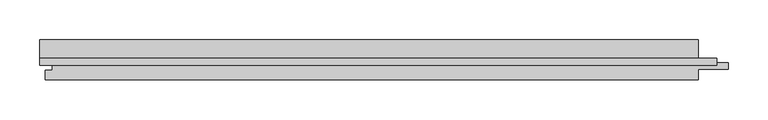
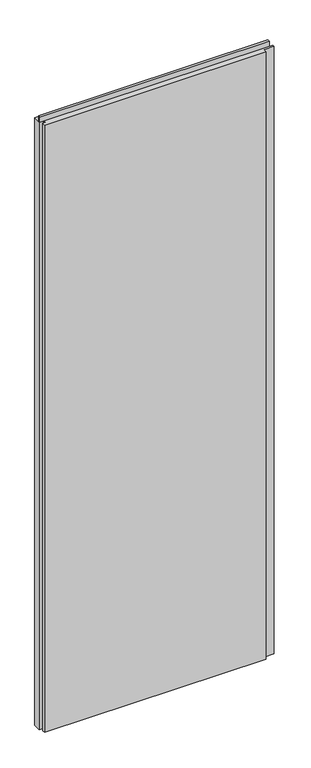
"""IFC4 building model written with IfcOpenShell, lengths in millimetres: plate geometry, Trimo_Qbiss Screen_Normal Panel-VERTICAL : HR - B."""

import ifcopenshell
import ifcopenshell.guid

model = None  # the IFC model being written
_history = None  # IfcOwnerHistory: only IFC2X3 demands one
_inside = {}  # id of a spatial element -> (the spatial element, [elements in it])
_under = {}  # id of a project, library or spatial element -> (it, [spatial elements below it])
_declared = {}  # id of a project -> (the project, [libraries it declares])
_typed = {}  # id of a type object -> (the type object, [elements of that type])
_made_of = {}  # id of a material, layer set ... -> (it, [elements and type objects made of it])


def new_model(schema):
    """Start an empty IFC model of exactly this schema.

    Asked for "IFC4X3", IfcOpenShell would pick the latest addendum, in which some entities
    have other attributes; the version numbers below select the first issue.
    IFC2X3 requires an IfcOwnerHistory on every rooted entity: one is made here for all.
    """
    global model, _history
    if schema == "IFC4X3":
        model = ifcopenshell.file(schema_version=(4, 3, 0, 0))
    else:
        model = ifcopenshell.file(schema=schema)
    _inside.clear()
    _under.clear()
    _declared.clear()
    _typed.clear()
    _made_of.clear()
    _history = None
    if model.schema == "IFC2X3":
        org = make("IfcOrganization", Name="unknown")
        user = make(
            "IfcPersonAndOrganization",
            ThePerson=make("IfcPerson", FamilyName="unknown"),
            TheOrganization=org,
        )
        app = make(
            "IfcApplication",
            ApplicationDeveloper=org,
            Version="unknown",
            ApplicationFullName="unknown",
            ApplicationIdentifier="unknown",
        )
        _history = make(
            "IfcOwnerHistory",
            OwningUser=user,
            OwningApplication=app,
            ChangeAction="ADDED",
            CreationDate=0,
        )
    return model


def make(cls, **values):
    """One entity of the class cls with the attributes given. An attribute that is None is left unset."""
    return model.create_entity(
        cls, **{name: value for name, value in values.items() if value is not None}
    )


def rooted(cls, **values):
    """An entity with a GlobalId (a new one), such as an element, a storey or a relation."""
    return make(cls, GlobalId=ifcopenshell.guid.new(), OwnerHistory=_history, **values)


def si_unit(unit_type, name, prefix=None):
    """IfcSIUnit, for example si_unit("LENGTHUNIT", "METRE", prefix="MILLI")."""
    return make("IfcSIUnit", UnitType=unit_type, Prefix=prefix, Name=name)


def assignment(units):
    """IfcUnitAssignment: the units of a project."""
    return None if units is None else make("IfcUnitAssignment", Units=units)


def point(xyz):
    """IfcCartesianPoint."""
    return None if xyz is None else make("IfcCartesianPoint", Coordinates=xyz)


def direction(xyz):
    """IfcDirection."""
    return None if xyz is None else make("IfcDirection", DirectionRatios=xyz)


def frame(location, z_axis=None, x_axis=None):
    """IfcAxis2Placement3D, a coordinate frame: its origin and axes. An axis left out is left unset."""
    return make(
        "IfcAxis2Placement3D",
        Location=point(location),
        Axis=direction(z_axis),
        RefDirection=direction(x_axis),
    )


def origin():
    """The frame at (0, 0, 0) with its axes left unset."""
    return frame((0.0, 0.0, 0.0))


def place(relative_to, where):
    """IfcLocalPlacement: puts the frame where relative to a parent placement (None: the world)."""
    return make(
        "IfcLocalPlacement", PlacementRelTo=relative_to, RelativePlacement=where
    )


def context(
    kind, dimensions, precision=None, world=None, true_north=None, identifier=None
):
    """IfcGeometricRepresentationContext, for example the 3D "Model" context."""
    return make(
        "IfcGeometricRepresentationContext",
        ContextIdentifier=identifier,
        ContextType=kind,
        CoordinateSpaceDimension=dimensions,
        Precision=precision,
        WorldCoordinateSystem=world,
        TrueNorth=true_north,
    )


def project(units=None, contexts=None):
    """IfcProject with its units and contexts."""
    return rooted(
        "IfcProject",
        Name="project",
        RepresentationContexts=contexts,
        UnitsInContext=assignment(units),
    )


def spatial(cls, under=None, at=None, **own):
    """A site, building, storey or space (cls), placed at a placement, below another one or the project."""
    s = rooted(cls, ObjectPlacement=at, **own)
    if under is not None:
        _under.setdefault(under.id(), (under, []))[1].append(s)
    return s


def polyline(points):
    """IfcPolyline through the points."""
    return make("IfcPolyline", Points=[point(p) for p in points])


def outline(outer, holes=None, kind="AREA"):
    """IfcArbitraryClosedProfileDef: a profile drawn as a closed curve; with holes, ...WithVoids."""
    if holes is None:
        return make("IfcArbitraryClosedProfileDef", ProfileType=kind, OuterCurve=outer)
    return make(
        "IfcArbitraryProfileDefWithVoids",
        ProfileType=kind,
        OuterCurve=outer,
        InnerCurves=holes,
    )


def extrude(swept, where, along, depth):
    """IfcExtrudedAreaSolid: the profile swept, set in the frame where, extruded along a direction by depth."""
    return make(
        "IfcExtrudedAreaSolid",
        SweptArea=swept,
        Position=where,
        ExtrudedDirection=direction(along),
        Depth=depth,
    )


def shape(context_of_items, identifier, shape_type, items):
    """IfcShapeRepresentation: the items that make up one representation, for example the "Body"."""
    return make(
        "IfcShapeRepresentation",
        ContextOfItems=context_of_items,
        RepresentationIdentifier=identifier,
        RepresentationType=shape_type,
        Items=items,
    )


def source(mapping_origin, context_of_items, identifier, shape_type, items):
    """IfcRepresentationMap: a shape defined once, which mapped items show again and again."""
    return make(
        "IfcRepresentationMap",
        MappingOrigin=mapping_origin,
        MappedRepresentation=shape(context_of_items, identifier, shape_type, items),
    )


def transform(
    local_origin,
    x_axis=None,
    y_axis=None,
    z_axis=None,
    scale=None,
    scale2=None,
    scale3=None,
    uniform=True,
):
    """IfcCartesianTransformationOperator3D, or its non-uniform kind. x_axis, y_axis, z_axis: its Axis1, 2, 3."""
    if uniform:
        return make(
            "IfcCartesianTransformationOperator3D",
            Axis1=direction(x_axis),
            Axis2=direction(y_axis),
            LocalOrigin=point(local_origin),
            Scale=scale,
            Axis3=direction(z_axis),
        )
    return make(
        "IfcCartesianTransformationOperator3DnonUniform",
        Axis1=direction(x_axis),
        Axis2=direction(y_axis),
        LocalOrigin=point(local_origin),
        Scale=scale,
        Axis3=direction(z_axis),
        Scale2=scale2,
        Scale3=scale3,
    )


def mapped(mapping_source, mapping_target):
    """IfcMappedItem: shows the shape of a source again, moved by a transform."""
    return make(
        "IfcMappedItem", MappingSource=mapping_source, MappingTarget=mapping_target
    )


def made_of(thing, what):
    """Note that an element or type object is made of a material, layer set ...; save() writes the relation."""
    if what is not None:
        _made_of.setdefault(what.id(), (what, []))[1].append(thing)
    return thing


def element(
    cls,
    number,
    at=None,
    inside=None,
    cuts=None,
    type_object=None,
    material=None,
    context=None,
    identifier="Body",
    shape_type=None,
    held_by="IfcProductDefinitionShape",
    body=None,
    shapes=None,
    **own,
):
    """One element of the class cls, such as IfcWall. Its Tag is "e" and its number.

    at: its placement. inside: the storey or other place that contains it. cuts: it is an
    opening in that element (IfcRelVoidsElement). A single representation is given by context,
    identifier, shape_type and body (its items); several are given by shapes. held_by: the class
    of the entity that holds the representations. save() writes the other relations.
    """
    e = rooted(cls, Tag="e%d" % number, ObjectPlacement=at, **own)
    if body is not None:
        shapes = [shape(context, identifier, shape_type, body)]
    if shapes is not None:
        e.Representation = make(held_by, Representations=shapes)
    if inside is not None:
        _inside.setdefault(inside.id(), (inside, []))[1].append(e)
    if cuts is not None:
        rooted(
            "IfcRelVoidsElement", RelatingBuildingElement=cuts, RelatedOpeningElement=e
        )
    if type_object is not None:
        _typed.setdefault(type_object.id(), (type_object, []))[1].append(e)
    return made_of(e, material)


def aggregate(whole, parts):
    """IfcRelAggregates: a whole, such as a stair, and the parts it consists of."""
    return rooted("IfcRelAggregates", RelatingObject=whole, RelatedObjects=parts)


def save(model, path):
    """Write the relations noted so far, then the file.

    IfcRelAggregates (storeys below a building ...), IfcRelContainedInSpatialStructure (elements
    in a storey), IfcRelDefinesByType, IfcRelAssociatesMaterial and IfcRelDeclares: one each for
    every whole, place, type object, material and project.
    """
    for whole, parts in _under.values():
        aggregate(whole, parts)
    for where, things in _inside.values():
        rooted(
            "IfcRelContainedInSpatialStructure",
            RelatedElements=things,
            RelatingStructure=where,
        )
    for kind, things in _typed.values():
        rooted("IfcRelDefinesByType", RelatedObjects=things, RelatingType=kind)
    for what, things in _made_of.values():
        rooted("IfcRelAssociatesMaterial", RelatedObjects=things, RelatingMaterial=what)
    for by, libraries in _declared.values():
        rooted("IfcRelDeclares", RelatingContext=by, RelatedDefinitions=libraries)
    model.write(path)


def plate_fa0548bc(model_context):
    return source(origin(), model_context, "Body", "SweptSolid", [
        extrude(outline(polyline([(403.0, 97.0), (403.0, 102.6), (424.0, 102.6), (424.0, 97.0), (403.0, 97.0)])), frame((0.0, 0.0, 12.5), z_axis=(0.0, 0.0, 1.0), x_axis=(1.0, 0.0, 0.0)), (0.0, 0.0, 1.0), 2375.0),
        extrude(outline(polyline([(-425.0, 93.9), (-425.0, 102.6), (425.0, 102.6), (425.0, 93.9), (-425.0, 93.9)])), frame((0.0, 0.0, 2390.5), z_axis=(0.0, 0.0, 1.0), x_axis=(1.0, 0.0, 0.0)), (0.0, 0.0, 1.0), 19.0),
        extrude(outline(polyline([(402.0, 97.0), (439.5, 97.0), (439.5, 89.0), (402.0, 89.0), (402.0, 76.0), (-418.0, 76.0), (-418.0, 88.0), (-409.5, 88.0), (-409.5, 98.0), (-425.0, 98.0), (-425.0, 126.0), (402.0, 126.0), (402.0, 97.0)])), frame((0.0, 0.0, 12.5), z_axis=(0.0, 0.0, 1.0), x_axis=(1.0, 0.0, 0.0)), (0.0, 0.0, 1.0), 2375.0),
    ])


if __name__ == "__main__":
    model = new_model("IFC4")
    model_context = context("Model", 3, world=origin())
    ifc_project = project(units=[si_unit("LENGTHUNIT", "METRE", prefix="MILLI")], contexts=[model_context])
    site = spatial("IfcSite", under=ifc_project)
    building = spatial("IfcBuilding", under=site)
    placement = place(None, origin())
    plate_shape = plate_fa0548bc(model_context)
    element("IfcPlate", 1, ObjectType="Trimo_Qbiss Screen_Normal Panel-VERTICAL : HR - B", at=placement, inside=building, context=model_context, shape_type="MappedRepresentation", body=[
        mapped(plate_shape, transform((0.0, 0.0, 0.0), x_axis=(1.0, 0.0, 0.0), y_axis=(0.0, 1.0, 0.0), z_axis=(0.0, 0.0, 1.0))),
    ])
    save(model, "model.ifc")
